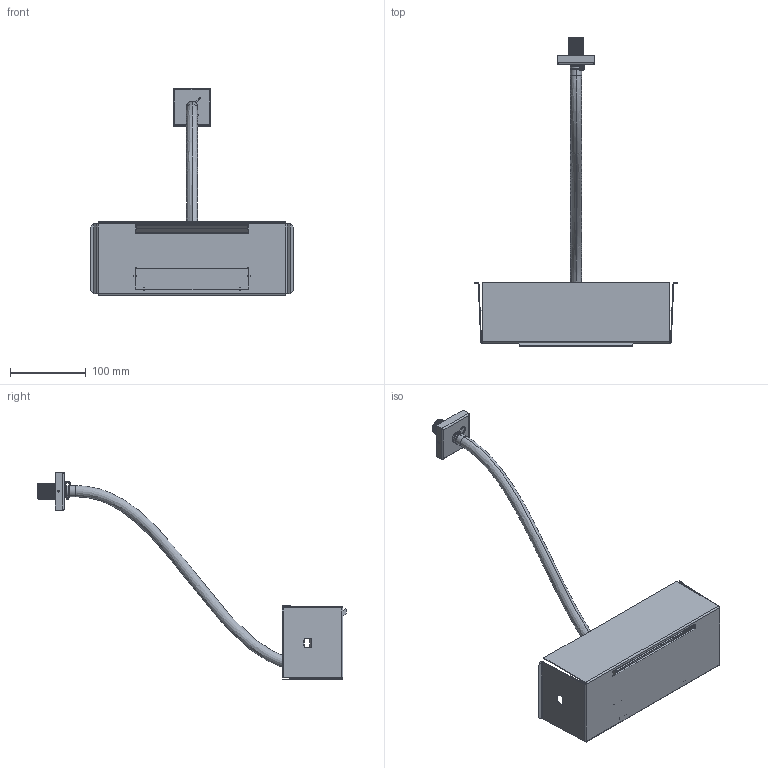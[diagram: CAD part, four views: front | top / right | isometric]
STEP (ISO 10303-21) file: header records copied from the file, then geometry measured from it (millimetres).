
FILE_DESCRIPTION((''),'2;1');
FILE_NAME('F2995_FILE_3D','2018-06-13T',('ivanv'),(''),'CREO PARAMETRIC BY PTC INC, 2016260','CREO PARAMETRIC BY PTC INC, 2016260','');
FILE_SCHEMA(('CONFIG_CONTROL_DESIGN'));
Products named in the file (1): F2995_FILE_3D
Bounding box: 267.98 x 406.29 x 273.7 mm (x, y, z)
Volume: 197248 mm3; surface area: 275117.3 mm2
Topology: 1 solids, 1 shells, 484 faces, 1305 edges, 782 vertices
Faces by surface type: plane 272, cylinder 124, bspline 54, revolution 12, extrusion 8, torus 8, cone 6
Entity records: 39405 total; most frequent: CARTESIAN_POINT 27874, ORIENTED_EDGE 2586, DIRECTION 2067, EDGE_CURVE 1293, VECTOR 849, LINE 841, VERTEX_POINT 782, AXIS2_PLACEMENT_3D 603
